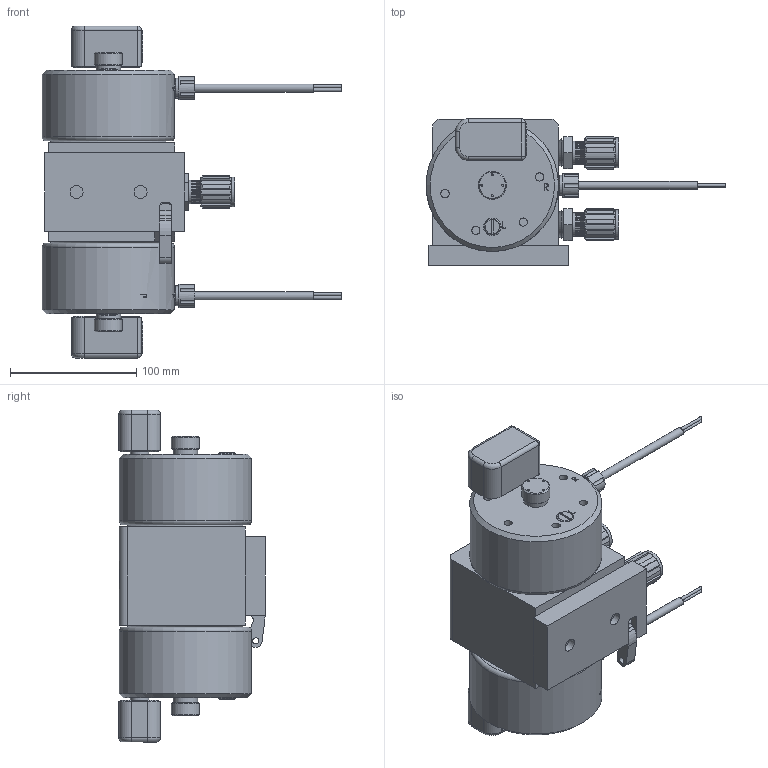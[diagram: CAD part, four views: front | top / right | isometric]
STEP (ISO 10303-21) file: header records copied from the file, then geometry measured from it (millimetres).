
FILE_DESCRIPTION (( 'STEP AP214' ), '1' );
FILE_NAME ('PFA015.STEP', '2017-07-31T15:53:54', ( '' ), ( '' ), 'SwSTEP 2.0', 'SolidWorks 2012', '' );
FILE_SCHEMA (( 'AUTOMOTIVE_DESIGN' ));
Length unit declared in the file: inch
Products named in the file (1): PFA015
Bounding box: 237.94 x 116.15 x 263.49 mm (x, y, z)
Volume: 2046452 mm3; surface area: 150686.4 mm2
Topology: 1 solids, 1 shells, 1224 faces, 3163 edges, 2096 vertices
Faces by surface type: plane 844, cylinder 177, bspline 103, cone 90, torus 6, sphere 4
Full cylindrical faces by diameter (mm): 1.6 x8, 2.362 x4, 3.251 x16, 3.264 x8, 4.445 x2, 4.902 x1, 6.35 x2, 6.528 x10, 10.312 x2, 11.43 x1, 11.509 x2, 13.513 x2, 14.656 x2, 15.875 x2, 15.939 x1, 16.7 x1, 18.542 x2, 18.644 x18, 18.923 x1, 19.475 x2, 22.225 x2, 23.597 x2, 25.19 x2, 94.412 x2, 105.08 x2
Entity records: 46548 total; most frequent: CARTESIAN_POINT 12758, ORIENTED_EDGE 5844, DIRECTION 5317, EDGE_CURVE 2922, VECTOR 2057, LINE 2057, VERTEX_POINT 2017, AXIS2_PLACEMENT_3D 1630
